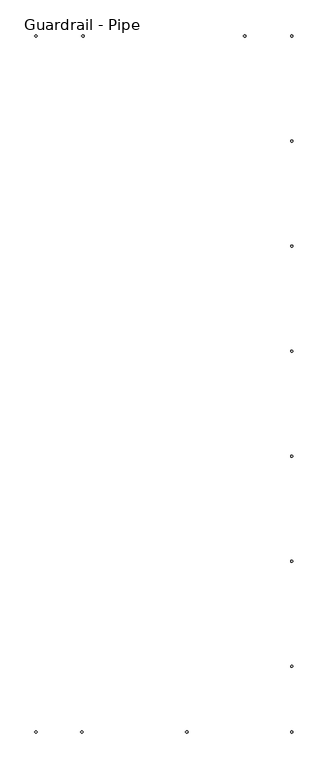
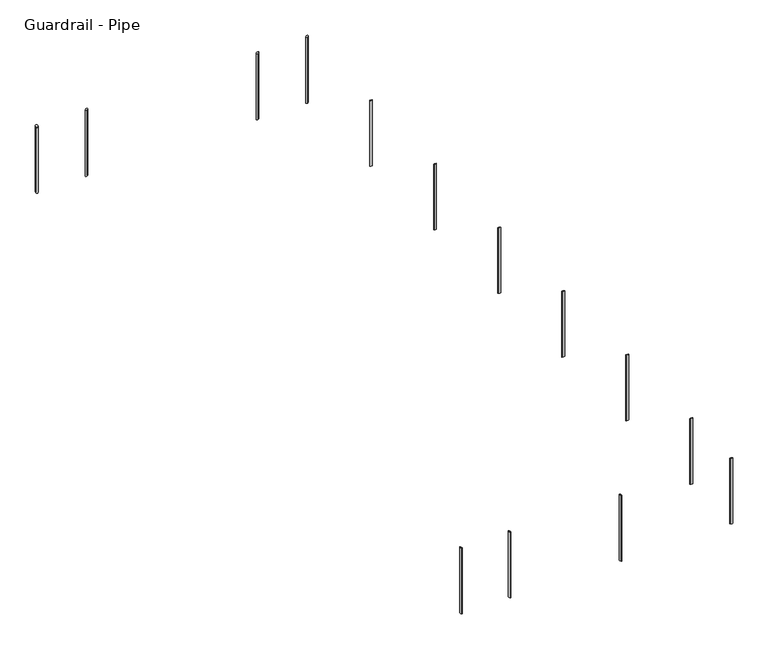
"""IFC4 building model written with IfcOpenShell, lengths in millimetres: railing geometry, Guardrail - Pipe."""

from ifc_helpers import new_model, si_unit, frame, origin, place, context, project, spatial, ellipse_curve, source, transform, mapped, element, save
from ifc_brep_helpers import plane_surface, cylinder_surface, advanced_brep


def guardrail_pipe_8e6e829c(model_context):
    return source(origin(), model_context, "Body", "AdvancedBrep", [
        advanced_brep(
        [(11509.7313551, 10899.7, 8077.2), (11509.7313551, 10899.7, 7315.2), (11509.7313551, 10874.3, 7315.2), (11509.7313551, 10874.3, 8077.2)],
        [
            (0, 1),
            (1, 2, ellipse_curve(frame((11509.7313551, 10887.0, 7315.2), z_axis=(0.536857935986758, 0.0, 0.8436726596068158), x_axis=(-0.8436726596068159, 0.0, 0.536857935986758)), 15.0532317, 12.7)),
            (2, 3),
            (3, 0, ellipse_curve(frame((11509.7313551, 10887.0, 8077.2), z_axis=(-0.5368579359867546, 0.0, -0.8436726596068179), x_axis=(-0.843672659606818, 0.0, 0.5368579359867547)), 15.0532317, 12.7)),
            (0, 3, ellipse_curve(frame((11509.7313551, 10887.0, 8077.2), z_axis=(-0.5368579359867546, 0.0, -0.8436726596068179), x_axis=(-0.843672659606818, 0.0, 0.5368579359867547)), 15.0532317, 12.7)),
            (2, 1, ellipse_curve(frame((11509.7313551, 10887.0, 7315.2), z_axis=(0.536857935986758, 0.0, 0.8436726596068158), x_axis=(-0.8436726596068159, 0.0, 0.536857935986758)), 15.0532317, 12.7)),
        ],
        [
            cylinder_surface(frame((11509.7313551, 10887.0, 7086.6), z_axis=(0.0, 0.0, 1.0), x_axis=(0.0, -1.0, 0.0)), 12.7),
            plane_surface(frame((11484.3313551, 10861.6, 8093.3628938), z_axis=(0.5368579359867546, 0.0, 0.8436726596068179), x_axis=(0.0, 1.0, 0.0))),
            plane_surface(frame((11535.1313551, 10861.6, 7299.0371062), z_axis=(-0.536857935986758, 0.0, -0.8436726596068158), x_axis=(0.0, 1.0, 0.0))),
        ],
        [
            (0, [[1, 2, 3, 4]]),
            (0, [[-1, 5, -3, 6]]),
            (1, [[-4, -5]]),
            (2, [[-2, -6]]),
        ],
    ),
        advanced_brep(
        [(12728.9313551, 10899.7, 8077.2), (12728.9313551, 10899.7, 7315.2), (12728.9313551, 10874.3, 7315.2), (12728.9313551, 10874.3, 8077.2)],
        [
            (0, 1),
            (1, 2, ellipse_curve(frame((12728.9313551, 10887.0, 7315.2), z_axis=(0.536857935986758, 0.0, 0.8436726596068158), x_axis=(-0.8436726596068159, 0.0, 0.536857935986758)), 15.0532317, 12.7)),
            (2, 3),
            (3, 0, ellipse_curve(frame((12728.9313551, 10887.0, 8077.2), z_axis=(-0.5368579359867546, 0.0, -0.8436726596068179), x_axis=(-0.843672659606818, 0.0, 0.5368579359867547)), 15.0532317, 12.7)),
            (0, 3, ellipse_curve(frame((12728.9313551, 10887.0, 8077.2), z_axis=(-0.5368579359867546, 0.0, -0.8436726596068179), x_axis=(-0.843672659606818, 0.0, 0.5368579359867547)), 15.0532317, 12.7)),
            (2, 1, ellipse_curve(frame((12728.9313551, 10887.0, 7315.2), z_axis=(0.536857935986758, 0.0, 0.8436726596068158), x_axis=(-0.8436726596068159, 0.0, 0.536857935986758)), 15.0532317, 12.7)),
        ],
        [
            cylinder_surface(frame((12728.9313551, 10887.0, 7086.6), z_axis=(0.0, 0.0, 1.0), x_axis=(0.0, -1.0, 0.0)), 12.7),
            plane_surface(frame((12703.5313551, 10861.6, 8093.3628938), z_axis=(0.5368579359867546, 0.0, 0.8436726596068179), x_axis=(0.0, 1.0, 0.0))),
            plane_surface(frame((12754.3313551, 10861.6, 7299.0371062), z_axis=(-0.536857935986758, 0.0, -0.8436726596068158), x_axis=(0.0, 1.0, 0.0))),
        ],
        [
            (0, [[1, 2, 3, 4]]),
            (0, [[-1, 5, -3, 6]]),
            (1, [[-4, -5]]),
            (2, [[-2, -6]]),
        ],
    ),
        advanced_brep(
        [(13935.4313551, 11649.0, 8077.2), (13935.4313551, 11649.0, 7315.2), (13960.8313551, 11649.0, 7315.2), (13960.8313551, 11649.0, 8077.2)],
        [
            (0, 1),
            (1, 2, ellipse_curve(frame((13948.1313551, 11649.0, 7315.2), z_axis=(0.0, 0.536857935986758, 0.8436726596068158), x_axis=(0.0, -0.8436726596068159, 0.536857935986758)), 15.0532317, 12.7)),
            (2, 3),
            (3, 0, ellipse_curve(frame((13948.1313551, 11649.0, 8077.2), z_axis=(0.0, -0.5368579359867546, -0.8436726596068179), x_axis=(0.0, -0.843672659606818, 0.5368579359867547)), 15.0532317, 12.7)),
            (0, 3, ellipse_curve(frame((13948.1313551, 11649.0, 8077.2), z_axis=(0.0, -0.5368579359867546, -0.8436726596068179), x_axis=(0.0, -0.843672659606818, 0.5368579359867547)), 15.0532317, 12.7)),
            (2, 1, ellipse_curve(frame((13948.1313551, 11649.0, 7315.2), z_axis=(0.0, 0.536857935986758, 0.8436726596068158), x_axis=(0.0, -0.8436726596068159, 0.536857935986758)), 15.0532317, 12.7)),
        ],
        [
            cylinder_surface(frame((13948.1313551, 11649.0, 7086.6), z_axis=(0.0, 0.0, 1.0), x_axis=(1.0, 0.0, 0.0)), 12.7),
            plane_surface(frame((13973.5313551, 11623.6, 8093.3628938), z_axis=(0.0, 0.5368579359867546, 0.8436726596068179), x_axis=(-1.0, 0.0, 0.0))),
            plane_surface(frame((13973.5313551, 11674.4, 7299.0371062), z_axis=(0.0, -0.536857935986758, -0.8436726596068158), x_axis=(-1.0, 0.0, 0.0))),
        ],
        [
            (0, [[1, 2, 3, 4]]),
            (0, [[-1, 5, -3, 6]]),
            (1, [[-4, -5]]),
            (2, [[-2, -6]]),
        ],
    ),
        advanced_brep(
        [(13935.4313551, 12868.2, 8077.2), (13935.4313551, 12868.2, 7315.2), (13960.8313551, 12868.2, 7315.2), (13960.8313551, 12868.2, 8077.2)],
        [
            (0, 1),
            (1, 2, ellipse_curve(frame((13948.1313551, 12868.2, 7315.2), z_axis=(0.0, 0.536857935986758, 0.8436726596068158), x_axis=(0.0, -0.8436726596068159, 0.536857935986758)), 15.0532317, 12.7)),
            (2, 3),
            (3, 0, ellipse_curve(frame((13948.1313551, 12868.2, 8077.2), z_axis=(0.0, -0.5368579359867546, -0.8436726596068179), x_axis=(0.0, -0.843672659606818, 0.5368579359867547)), 15.0532317, 12.7)),
            (0, 3, ellipse_curve(frame((13948.1313551, 12868.2, 8077.2), z_axis=(0.0, -0.5368579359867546, -0.8436726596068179), x_axis=(0.0, -0.843672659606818, 0.5368579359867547)), 15.0532317, 12.7)),
            (2, 1, ellipse_curve(frame((13948.1313551, 12868.2, 7315.2), z_axis=(0.0, 0.536857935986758, 0.8436726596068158), x_axis=(0.0, -0.8436726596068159, 0.536857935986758)), 15.0532317, 12.7)),
        ],
        [
            cylinder_surface(frame((13948.1313551, 12868.2, 7086.6), z_axis=(0.0, 0.0, 1.0), x_axis=(1.0, 0.0, 0.0)), 12.7),
            plane_surface(frame((13973.5313551, 12842.8, 8093.3628938), z_axis=(0.0, 0.5368579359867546, 0.8436726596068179), x_axis=(-1.0, 0.0, 0.0))),
            plane_surface(frame((13973.5313551, 12893.6, 7299.0371062), z_axis=(0.0, -0.536857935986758, -0.8436726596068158), x_axis=(-1.0, 0.0, 0.0))),
        ],
        [
            (0, [[1, 2, 3, 4]]),
            (0, [[-1, 5, -3, 6]]),
            (1, [[-4, -5]]),
            (2, [[-2, -6]]),
        ],
    ),
        advanced_brep(
        [(13935.4313551, 14087.4, 8077.2), (13935.4313551, 14087.4, 7315.2), (13960.8313551, 14087.4, 7315.2), (13960.8313551, 14087.4, 8077.2)],
        [
            (0, 1),
            (1, 2, ellipse_curve(frame((13948.1313551, 14087.4, 7315.2), z_axis=(0.0, 0.536857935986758, 0.8436726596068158), x_axis=(0.0, -0.8436726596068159, 0.536857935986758)), 15.0532317, 12.7)),
            (2, 3),
            (3, 0, ellipse_curve(frame((13948.1313551, 14087.4, 8077.2), z_axis=(0.0, -0.5368579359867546, -0.8436726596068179), x_axis=(0.0, -0.843672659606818, 0.5368579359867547)), 15.0532317, 12.7)),
            (0, 3, ellipse_curve(frame((13948.1313551, 14087.4, 8077.2), z_axis=(0.0, -0.5368579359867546, -0.8436726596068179), x_axis=(0.0, -0.843672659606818, 0.5368579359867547)), 15.0532317, 12.7)),
            (2, 1, ellipse_curve(frame((13948.1313551, 14087.4, 7315.2), z_axis=(0.0, 0.536857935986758, 0.8436726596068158), x_axis=(0.0, -0.8436726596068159, 0.536857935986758)), 15.0532317, 12.7)),
        ],
        [
            cylinder_surface(frame((13948.1313551, 14087.4, 7086.6), z_axis=(0.0, 0.0, 1.0), x_axis=(1.0, 0.0, 0.0)), 12.7),
            plane_surface(frame((13973.5313551, 14062.0, 8093.3628938), z_axis=(0.0, 0.5368579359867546, 0.8436726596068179), x_axis=(-1.0, 0.0, 0.0))),
            plane_surface(frame((13973.5313551, 14112.8, 7299.0371062), z_axis=(0.0, -0.536857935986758, -0.8436726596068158), x_axis=(-1.0, 0.0, 0.0))),
        ],
        [
            (0, [[1, 2, 3, 4]]),
            (0, [[-1, 5, -3, 6]]),
            (1, [[-4, -5]]),
            (2, [[-2, -6]]),
        ],
    ),
        advanced_brep(
        [(13935.4313551, 15306.6, 8077.2), (13935.4313551, 15306.6, 7315.2), (13960.8313551, 15306.6, 7315.2), (13960.8313551, 15306.6, 8077.2)],
        [
            (0, 1),
            (1, 2, ellipse_curve(frame((13948.1313551, 15306.6, 7315.2), z_axis=(0.0, 0.536857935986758, 0.8436726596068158), x_axis=(0.0, -0.8436726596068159, 0.536857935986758)), 15.0532317, 12.7)),
            (2, 3),
            (3, 0, ellipse_curve(frame((13948.1313551, 15306.6, 8077.2), z_axis=(0.0, -0.5368579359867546, -0.8436726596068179), x_axis=(0.0, -0.843672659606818, 0.5368579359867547)), 15.0532317, 12.7)),
            (0, 3, ellipse_curve(frame((13948.1313551, 15306.6, 8077.2), z_axis=(0.0, -0.5368579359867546, -0.8436726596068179), x_axis=(0.0, -0.843672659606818, 0.5368579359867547)), 15.0532317, 12.7)),
            (2, 1, ellipse_curve(frame((13948.1313551, 15306.6, 7315.2), z_axis=(0.0, 0.536857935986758, 0.8436726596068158), x_axis=(0.0, -0.8436726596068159, 0.536857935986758)), 15.0532317, 12.7)),
        ],
        [
            cylinder_surface(frame((13948.1313551, 15306.6, 7086.6), z_axis=(0.0, 0.0, 1.0), x_axis=(1.0, 0.0, 0.0)), 12.7),
            plane_surface(frame((13973.5313551, 15281.2, 8093.3628938), z_axis=(0.0, 0.5368579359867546, 0.8436726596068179), x_axis=(-1.0, 0.0, 0.0))),
            plane_surface(frame((13973.5313551, 15332.0, 7299.0371062), z_axis=(0.0, -0.536857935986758, -0.8436726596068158), x_axis=(-1.0, 0.0, 0.0))),
        ],
        [
            (0, [[1, 2, 3, 4]]),
            (0, [[-1, 5, -3, 6]]),
            (1, [[-4, -5]]),
            (2, [[-2, -6]]),
        ],
    ),
        advanced_brep(
        [(13935.4313551, 16525.8, 8077.2), (13935.4313551, 16525.8, 7315.2), (13960.8313551, 16525.8, 7315.2), (13960.8313551, 16525.8, 8077.2)],
        [
            (0, 1),
            (1, 2, ellipse_curve(frame((13948.1313551, 16525.8, 7315.2), z_axis=(0.0, 0.536857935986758, 0.8436726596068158), x_axis=(0.0, -0.8436726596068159, 0.536857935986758)), 15.0532317, 12.7)),
            (2, 3),
            (3, 0, ellipse_curve(frame((13948.1313551, 16525.8, 8077.2), z_axis=(0.0, -0.5368579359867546, -0.8436726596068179), x_axis=(0.0, -0.843672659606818, 0.5368579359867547)), 15.0532317, 12.7)),
            (0, 3, ellipse_curve(frame((13948.1313551, 16525.8, 8077.2), z_axis=(0.0, -0.5368579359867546, -0.8436726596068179), x_axis=(0.0, -0.843672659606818, 0.5368579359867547)), 15.0532317, 12.7)),
            (2, 1, ellipse_curve(frame((13948.1313551, 16525.8, 7315.2), z_axis=(0.0, 0.536857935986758, 0.8436726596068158), x_axis=(0.0, -0.8436726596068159, 0.536857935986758)), 15.0532317, 12.7)),
        ],
        [
            cylinder_surface(frame((13948.1313551, 16525.8, 7086.6), z_axis=(0.0, 0.0, 1.0), x_axis=(1.0, 0.0, 0.0)), 12.7),
            plane_surface(frame((13973.5313551, 16500.4, 8093.3628938), z_axis=(0.0, 0.5368579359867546, 0.8436726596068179), x_axis=(-1.0, 0.0, 0.0))),
            plane_surface(frame((13973.5313551, 16551.2, 7299.0371062), z_axis=(0.0, -0.536857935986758, -0.8436726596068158), x_axis=(-1.0, 0.0, 0.0))),
        ],
        [
            (0, [[1, 2, 3, 4]]),
            (0, [[-1, 5, -3, 6]]),
            (1, [[-4, -5]]),
            (2, [[-2, -6]]),
        ],
    ),
        advanced_brep(
        [(13935.4313551, 17745.0, 8077.2), (13935.4313551, 17745.0, 7315.2), (13960.8313551, 17745.0, 7315.2), (13960.8313551, 17745.0, 8077.2)],
        [
            (0, 1),
            (1, 2, ellipse_curve(frame((13948.1313551, 17745.0, 7315.2), z_axis=(0.0, 0.536857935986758, 0.8436726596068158), x_axis=(0.0, -0.8436726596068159, 0.536857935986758)), 15.0532317, 12.7)),
            (2, 3),
            (3, 0, ellipse_curve(frame((13948.1313551, 17745.0, 8077.2), z_axis=(0.0, -0.5368579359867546, -0.8436726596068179), x_axis=(0.0, -0.843672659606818, 0.5368579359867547)), 15.0532317, 12.7)),
            (0, 3, ellipse_curve(frame((13948.1313551, 17745.0, 8077.2), z_axis=(0.0, -0.5368579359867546, -0.8436726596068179), x_axis=(0.0, -0.843672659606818, 0.5368579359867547)), 15.0532317, 12.7)),
            (2, 1, ellipse_curve(frame((13948.1313551, 17745.0, 7315.2), z_axis=(0.0, 0.536857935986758, 0.8436726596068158), x_axis=(0.0, -0.8436726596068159, 0.536857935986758)), 15.0532317, 12.7)),
        ],
        [
            cylinder_surface(frame((13948.1313551, 17745.0, 7086.6), z_axis=(0.0, 0.0, 1.0), x_axis=(1.0, 0.0, 0.0)), 12.7),
            plane_surface(frame((13973.5313551, 17719.6, 8093.3628938), z_axis=(0.0, 0.5368579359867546, 0.8436726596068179), x_axis=(-1.0, 0.0, 0.0))),
            plane_surface(frame((13973.5313551, 17770.4, 7299.0371062), z_axis=(0.0, -0.536857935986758, -0.8436726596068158), x_axis=(-1.0, 0.0, 0.0))),
        ],
        [
            (0, [[1, 2, 3, 4]]),
            (0, [[-1, 5, -3, 6]]),
            (1, [[-4, -5]]),
            (2, [[-2, -6]]),
        ],
    ),
        advanced_brep(
        [(10988.2313551, 18964.2, 8077.2), (10988.2313551, 18964.2, 7315.2), (10962.8313551, 18964.2, 7315.2), (10962.8313551, 18964.2, 8077.2)],
        [
            (0, 1),
            (1, 2, ellipse_curve(frame((10975.5313551, 18964.2, 7315.2), z_axis=(0.0, -0.536857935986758, 0.8436726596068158), x_axis=(0.0, 0.8436726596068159, 0.536857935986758)), 15.0532317, 12.7)),
            (2, 3),
            (3, 0, ellipse_curve(frame((10975.5313551, 18964.2, 8077.2), z_axis=(0.0, 0.5368579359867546, -0.8436726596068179), x_axis=(0.0, 0.843672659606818, 0.5368579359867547)), 15.0532317, 12.7)),
            (0, 3, ellipse_curve(frame((10975.5313551, 18964.2, 8077.2), z_axis=(0.0, 0.5368579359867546, -0.8436726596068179), x_axis=(0.0, 0.843672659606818, 0.5368579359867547)), 15.0532317, 12.7)),
            (2, 1, ellipse_curve(frame((10975.5313551, 18964.2, 7315.2), z_axis=(0.0, -0.536857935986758, 0.8436726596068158), x_axis=(0.0, 0.8436726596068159, 0.536857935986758)), 15.0532317, 12.7)),
        ],
        [
            cylinder_surface(frame((10975.5313551, 18964.2, 7086.6), z_axis=(0.0, 0.0, 1.0), x_axis=(-1.0, 0.0, 0.0)), 12.7),
            plane_surface(frame((10950.1313551, 18989.6, 8093.3628938), z_axis=(0.0, -0.5368579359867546, 0.8436726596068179), x_axis=(1.0, 0.0, 0.0))),
            plane_surface(frame((10950.1313551, 18938.8, 7299.0371062), z_axis=(0.0, 0.536857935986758, -0.8436726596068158), x_axis=(1.0, 0.0, 0.0))),
        ],
        [
            (0, [[1, 2, 3, 4]]),
            (0, [[-1, 5, -3, 6]]),
            (1, [[-4, -5]]),
            (2, [[-2, -6]]),
        ],
    ),
        advanced_brep(
        [(10975.5313551, 10899.7, 8077.2), (10975.5313551, 10899.7, 7315.2), (10975.5313551, 10874.3, 7315.2), (10975.5313551, 10874.3, 8077.2)],
        [
            (0, 1),
            (1, 2, ellipse_curve(frame((10975.5313551, 10887.0, 7315.2), z_axis=(0.536857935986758, 0.0, 0.8436726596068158), x_axis=(-0.8436726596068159, 0.0, 0.536857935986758)), 15.0532317, 12.7)),
            (2, 3),
            (3, 0, ellipse_curve(frame((10975.5313551, 10887.0, 8077.2), z_axis=(-0.5368579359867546, 0.0, -0.8436726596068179), x_axis=(-0.843672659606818, 0.0, 0.5368579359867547)), 15.0532317, 12.7)),
            (0, 3, ellipse_curve(frame((10975.5313551, 10887.0, 8077.2), z_axis=(-0.5368579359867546, 0.0, -0.8436726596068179), x_axis=(-0.843672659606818, 0.0, 0.5368579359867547)), 15.0532317, 12.7)),
            (2, 1, ellipse_curve(frame((10975.5313551, 10887.0, 7315.2), z_axis=(0.536857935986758, 0.0, 0.8436726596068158), x_axis=(-0.8436726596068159, 0.0, 0.536857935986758)), 15.0532317, 12.7)),
        ],
        [
            cylinder_surface(frame((10975.5313551, 10887.0, 7086.6), z_axis=(0.0, 0.0, 1.0), x_axis=(0.0, -1.0, 0.0)), 12.7),
            plane_surface(frame((10950.1313551, 10861.6, 8093.3628938), z_axis=(0.5368579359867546, 0.0, 0.8436726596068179), x_axis=(0.0, 1.0, 0.0))),
            plane_surface(frame((11000.9313551, 10861.6, 7299.0371062), z_axis=(-0.536857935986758, 0.0, -0.8436726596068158), x_axis=(0.0, 1.0, 0.0))),
        ],
        [
            (0, [[1, 2, 3, 4]]),
            (0, [[-1, 5, -3, 6]]),
            (1, [[-4, -5]]),
            (2, [[-2, -6]]),
        ],
    ),
        advanced_brep(
        [(13935.4313551, 10887.0, 8077.2), (13935.4313551, 10887.0, 7315.2), (13960.8313551, 10887.0, 7315.2), (13960.8313551, 10887.0, 8077.2)],
        [
            (0, 1),
            (1, 2, ellipse_curve(frame((13948.1313551, 10887.0, 7315.2), z_axis=(0.0, 0.536857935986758, 0.8436726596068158), x_axis=(0.0, -0.8436726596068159, 0.536857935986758)), 15.0532317, 12.7)),
            (2, 3),
            (3, 0, ellipse_curve(frame((13948.1313551, 10887.0, 8077.2), z_axis=(0.0, -0.5368579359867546, -0.8436726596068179), x_axis=(0.0, -0.843672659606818, 0.5368579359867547)), 15.0532317, 12.7)),
            (0, 3, ellipse_curve(frame((13948.1313551, 10887.0, 8077.2), z_axis=(0.0, -0.5368579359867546, -0.8436726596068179), x_axis=(0.0, -0.843672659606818, 0.5368579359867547)), 15.0532317, 12.7)),
            (2, 1, ellipse_curve(frame((13948.1313551, 10887.0, 7315.2), z_axis=(0.0, 0.536857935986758, 0.8436726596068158), x_axis=(0.0, -0.8436726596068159, 0.536857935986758)), 15.0532317, 12.7)),
        ],
        [
            cylinder_surface(frame((13948.1313551, 10887.0, 7086.6), z_axis=(0.0, 0.0, 1.0), x_axis=(1.0, 0.0, 0.0)), 12.7),
            plane_surface(frame((13973.5313551, 10861.6, 8093.3628938), z_axis=(0.0, 0.5368579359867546, 0.8436726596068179), x_axis=(-1.0, 0.0, 0.0))),
            plane_surface(frame((13973.5313551, 10912.4, 7299.0371062), z_axis=(0.0, -0.536857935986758, -0.8436726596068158), x_axis=(-1.0, 0.0, 0.0))),
        ],
        [
            (0, [[1, 2, 3, 4]]),
            (0, [[-1, 5, -3, 6]]),
            (1, [[-4, -5]]),
            (2, [[-2, -6]]),
        ],
    ),
        advanced_brep(
        [(13948.1313551, 18951.5, 8077.2), (13948.1313551, 18951.5, 7315.2), (13948.1313551, 18976.9, 7315.2), (13948.1313551, 18976.9, 8077.2)],
        [
            (0, 1),
            (1, 2, ellipse_curve(frame((13948.1313551, 18964.2, 7315.2), z_axis=(-0.536857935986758, 0.0, 0.8436726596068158), x_axis=(0.8436726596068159, 0.0, 0.536857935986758)), 15.0532317, 12.7)),
            (2, 3),
            (3, 0, ellipse_curve(frame((13948.1313551, 18964.2, 8077.2), z_axis=(0.5368579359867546, 0.0, -0.8436726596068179), x_axis=(0.843672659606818, 0.0, 0.5368579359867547)), 15.0532317, 12.7)),
            (0, 3, ellipse_curve(frame((13948.1313551, 18964.2, 8077.2), z_axis=(0.5368579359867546, 0.0, -0.8436726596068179), x_axis=(0.843672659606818, 0.0, 0.5368579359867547)), 15.0532317, 12.7)),
            (2, 1, ellipse_curve(frame((13948.1313551, 18964.2, 7315.2), z_axis=(-0.536857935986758, 0.0, 0.8436726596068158), x_axis=(0.8436726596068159, 0.0, 0.536857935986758)), 15.0532317, 12.7)),
        ],
        [
            cylinder_surface(frame((13948.1313551, 18964.2, 7086.6), z_axis=(0.0, 0.0, 1.0), x_axis=(0.0, 1.0, 0.0)), 12.7),
            plane_surface(frame((13973.5313551, 18989.6, 8093.3628938), z_axis=(-0.5368579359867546, 0.0, 0.8436726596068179), x_axis=(0.0, -1.0, 0.0))),
            plane_surface(frame((13922.7313551, 18989.6, 7299.0371062), z_axis=(0.536857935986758, 0.0, -0.8436726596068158), x_axis=(0.0, -1.0, 0.0))),
        ],
        [
            (0, [[1, 2, 3, 4]]),
            (0, [[-1, 5, -3, 6]]),
            (1, [[-4, -5]]),
            (2, [[-2, -6]]),
        ],
    ),
        advanced_brep(
        [(11521.6313551, 18951.5, 8077.2), (11521.6313551, 18951.5, 7315.2), (11521.6313551, 18976.9, 7315.2), (11521.6313551, 18976.9, 8077.2)],
        [
            (0, 1),
            (1, 2, ellipse_curve(frame((11521.6313551, 18964.2, 7315.2), z_axis=(-0.536857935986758, 0.0, 0.8436726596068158), x_axis=(0.8436726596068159, 0.0, 0.536857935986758)), 15.0532317, 12.7)),
            (2, 3),
            (3, 0, ellipse_curve(frame((11521.6313551, 18964.2, 8077.2), z_axis=(0.5368579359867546, 0.0, -0.8436726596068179), x_axis=(0.843672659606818, 0.0, 0.5368579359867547)), 15.0532317, 12.7)),
            (0, 3, ellipse_curve(frame((11521.6313551, 18964.2, 8077.2), z_axis=(0.5368579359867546, 0.0, -0.8436726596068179), x_axis=(0.843672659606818, 0.0, 0.5368579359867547)), 15.0532317, 12.7)),
            (2, 1, ellipse_curve(frame((11521.6313551, 18964.2, 7315.2), z_axis=(-0.536857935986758, 0.0, 0.8436726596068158), x_axis=(0.8436726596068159, 0.0, 0.536857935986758)), 15.0532317, 12.7)),
        ],
        [
            cylinder_surface(frame((11521.6313551, 18964.2, 7086.6), z_axis=(0.0, 0.0, 1.0), x_axis=(0.0, 1.0, 0.0)), 12.7),
            plane_surface(frame((11547.0313551, 18989.6, 8093.3628938), z_axis=(-0.5368579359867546, 0.0, 0.8436726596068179), x_axis=(0.0, -1.0, 0.0))),
            plane_surface(frame((11496.2313551, 18989.6, 7299.0371062), z_axis=(0.536857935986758, 0.0, -0.8436726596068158), x_axis=(0.0, -1.0, 0.0))),
        ],
        [
            (0, [[1, 2, 3, 4]]),
            (0, [[-1, 5, -3, 6]]),
            (1, [[-4, -5]]),
            (2, [[-2, -6]]),
        ],
    ),
        advanced_brep(
        [(13402.0313551, 18951.5, 8077.2), (13402.0313551, 18951.5, 7315.2), (13402.0313551, 18976.9, 7315.2), (13402.0313551, 18976.9, 8077.2)],
        [
            (0, 1),
            (1, 2, ellipse_curve(frame((13402.0313551, 18964.2, 7315.2), z_axis=(-0.536857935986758, 0.0, 0.8436726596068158), x_axis=(0.8436726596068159, 0.0, 0.536857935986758)), 15.0532317, 12.7)),
            (2, 3),
            (3, 0, ellipse_curve(frame((13402.0313551, 18964.2, 8077.2), z_axis=(0.5368579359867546, 0.0, -0.8436726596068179), x_axis=(0.843672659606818, 0.0, 0.5368579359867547)), 15.0532317, 12.7)),
            (0, 3, ellipse_curve(frame((13402.0313551, 18964.2, 8077.2), z_axis=(0.5368579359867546, 0.0, -0.8436726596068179), x_axis=(0.843672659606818, 0.0, 0.5368579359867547)), 15.0532317, 12.7)),
            (2, 1, ellipse_curve(frame((13402.0313551, 18964.2, 7315.2), z_axis=(-0.536857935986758, 0.0, 0.8436726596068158), x_axis=(0.8436726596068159, 0.0, 0.536857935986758)), 15.0532317, 12.7)),
        ],
        [
            cylinder_surface(frame((13402.0313551, 18964.2, 7086.6), z_axis=(0.0, 0.0, 1.0), x_axis=(0.0, 1.0, 0.0)), 12.7),
            plane_surface(frame((13427.4313551, 18989.6, 8093.3628938), z_axis=(-0.5368579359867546, 0.0, 0.8436726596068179), x_axis=(0.0, -1.0, 0.0))),
            plane_surface(frame((13376.6313551, 18989.6, 7299.0371062), z_axis=(0.536857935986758, 0.0, -0.8436726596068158), x_axis=(0.0, -1.0, 0.0))),
        ],
        [
            (0, [[1, 2, 3, 4]]),
            (0, [[-1, 5, -3, 6]]),
            (1, [[-4, -5]]),
            (2, [[-2, -6]]),
        ],
    ),
    ])


if __name__ == "__main__":
    model = new_model("IFC4")
    model_context = context("Model", 3, world=origin())
    ifc_project = project(units=[si_unit("LENGTHUNIT", "METRE", prefix="MILLI")], contexts=[model_context])
    site = spatial("IfcSite", under=ifc_project)
    building = spatial("IfcBuilding", under=site)
    placement = place(None, origin())
    guardrail_pipe_shape = guardrail_pipe_8e6e829c(model_context)
    element("IfcRailing", 1, ObjectType="Guardrail - Pipe", at=placement, inside=building, context=model_context, shape_type="MappedRepresentation", body=[
        mapped(guardrail_pipe_shape, transform((0.0, 0.0, 0.0), x_axis=(1.0, 0.0, 0.0), y_axis=(0.0, 1.0, 0.0), z_axis=(0.0, 0.0, 1.0))),
    ])
    save(model, "model.ifc")
